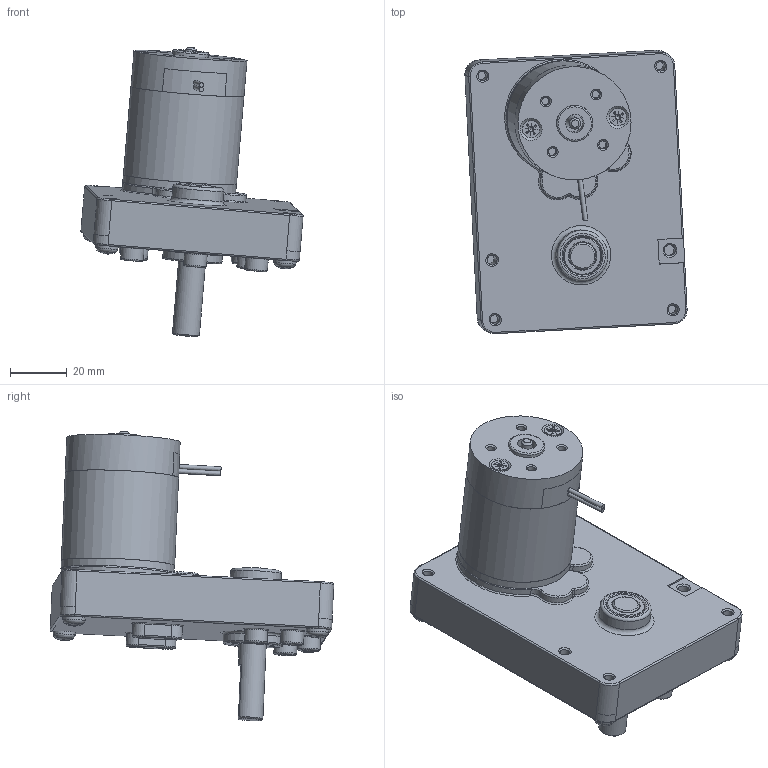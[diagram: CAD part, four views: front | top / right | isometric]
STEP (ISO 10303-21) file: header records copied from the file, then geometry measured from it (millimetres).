
FILE_DESCRIPTION(/* description */ (''),/* implementation_level */ '2;1');
FILE_NAME(/* name */ 'C:\Users\byjeong\Desktop\3D도면\SP42BL.stp',/* time_stamp */ '2015-03-31T15:13:17+09:00',/* author */ ('byjeong'),/* organization */ (''),/* preprocessor_version */ 'ST-DEVELOPER v15.6',/* originating_system */ 'Autodesk Inventor 2015',/* authorisation */ '');
FILE_SCHEMA (('AUTOMOTIVE_DESIGN { 1 0 10303 214 3 1 1 }'));
Length unit declared in the file: millimetre
Products named in the file (10): SQ BOX ASSY; RM4TYPE_FRONT_HOUSING_; RM4TYPE_PIPE_HOUSING_pi40XL31.2; RM42TYPE_SHAFT; AS 1427 Z - 미터 M3.5 x 5; RM4TYPE_BRUSH_BRAKET_LEAD; RM4TYPE_REAR_HOUSING; REAR_HOUSING__ASS'Y_LEAD; RM42ㅁBL; 조립품23
Bounding box: 78.3 x 99.88 x 101.99 mm (x, y, z)
Volume: 144959.8 mm3; surface area: 42849.9 mm2
Topology: 14 solids, 14 shells, 464 faces, 1064 edges, 664 vertices
Faces by surface type: plane 152, cone 119, cylinder 108, torus 78, sphere 4, bspline 3
Full cylindrical faces by diameter (mm): 1.6 x2, 2.7 x4, 2.8 x4, 3.132 x2, 3.3 x4, 3.4 x3, 3.5 x3, 3.571 x3, 3.7 x2, 3.9 x1, 3.969 x1, 4 x10, 4.4 x3, 5 x1, 6.1 x2, 6.5 x1, 6.65 x1, 8 x5, 9.5 x3, 12.7 x3, 13.5 x2, 14.3 x1, 18 x1, 21 x1, 36.5 x1, 40 x3
Entity records: 11819 total; most frequent: CARTESIAN_POINT 2825, DIRECTION 1953, ORIENTED_EDGE 1582, AXIS2_PLACEMENT_3D 889, EDGE_CURVE 790, EDGE_LOOP 635, VERTEX_POINT 570, CIRCLE 441
